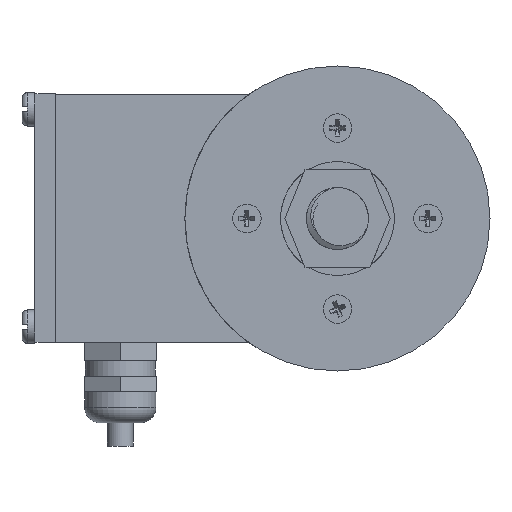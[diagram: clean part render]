
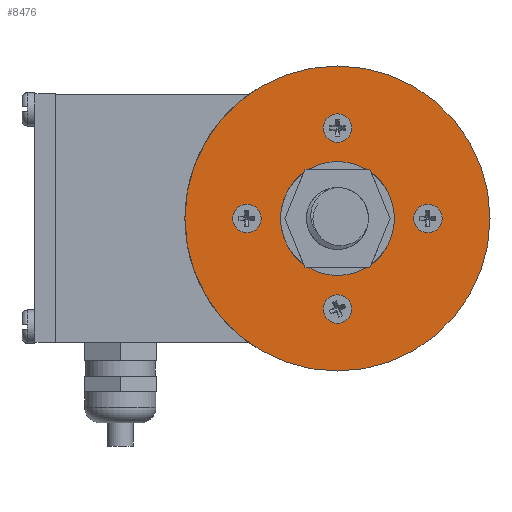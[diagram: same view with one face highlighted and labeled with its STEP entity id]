
A CAD part, front view. The second image highlights one B-rep face of the part: STEP entity #8476.
In plain terms, the highlighted planar face has unit normal (0, -1, 0).
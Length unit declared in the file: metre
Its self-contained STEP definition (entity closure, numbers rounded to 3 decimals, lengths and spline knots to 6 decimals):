
#19 = FACE_OUTER_BOUND ( 'NONE', #10253, .T. ) ;
#22 = FACE_BOUND ( 'NONE', #10271, .T. ) ;
#24 = FACE_BOUND ( 'NONE', #10251, .T. ) ;
#25 = FACE_BOUND ( 'NONE', #10249, .T. ) ;
#26 = FACE_BOUND ( 'NONE', #10246, .T. ) ;
#27 = FACE_BOUND ( 'NONE', #10248, .T. ) ;
#3450 = CIRCLE ( 'NONE', #9818, 0.0295 ) ;
#3478 = CIRCLE ( 'NONE', #9827, 0.011 ) ;
#3669 = CIRCLE ( 'NONE', #9858, 0.00275 ) ;
#3692 = CIRCLE ( 'NONE', #9857, 0.00275 ) ;
#3696 = CIRCLE ( 'NONE', #9860, 0.00275 ) ;
#3718 = CIRCLE ( 'NONE', #9859, 0.00275 ) ;
#3875 = CIRCLE ( 'NONE', #10649, 0.00275 ) ;
#3882 = CIRCLE ( 'NONE', #10654, 0.00275 ) ;
#3907 = CIRCLE ( 'NONE', #10659, 0.0295 ) ;
#3911 = CIRCLE ( 'NONE', #10662, 0.00275 ) ;
#3914 = CIRCLE ( 'NONE', #10661, 0.011 ) ;
#4964 = CARTESIAN_POINT ( 'NONE',  ( -0.01173, 0.003431, 0.00775 ) ) ;
#4965 = DIRECTION ( 'NONE',  ( 0., -1., 0. ) ) ;
#4966 = DIRECTION ( 'NONE',  ( 0., 0., -1. ) ) ;
#5005 = CARTESIAN_POINT ( 'NONE',  ( -0.01173, 0.003431, 0.00775 ) ) ;
#5006 = DIRECTION ( 'NONE',  ( 0., -1., 0. ) ) ;
#5007 = DIRECTION ( 'NONE',  ( 0., 0., 1. ) ) ;
#5764 = CARTESIAN_POINT ( 'NONE',  ( -0.01173, 0.003431, 0.028 ) ) ;
#5772 = CARTESIAN_POINT ( 'NONE',  ( 0.00577, 0.003431, 0.0105 ) ) ;
#5775 = CARTESIAN_POINT ( 'NONE',  ( -0.01173, 0.003431, -0.00325 ) ) ;
#5784 = CARTESIAN_POINT ( 'NONE',  ( -0.01173, 0.003431, -0.007 ) ) ;
#5788 = CARTESIAN_POINT ( 'NONE',  ( -0.02923, 0.003431, 0.005 ) ) ;
#5795 = CARTESIAN_POINT ( 'NONE',  ( 0.00577, 0.003431, 0.005 ) ) ;
#5843 = CARTESIAN_POINT ( 'NONE',  ( -0.02923, 0.003431, 0.0105 ) ) ;
#5881 = CARTESIAN_POINT ( 'NONE',  ( -0.01173, 0.003431, -0.02175 ) ) ;
#5883 = CARTESIAN_POINT ( 'NONE',  ( -0.01173, 0.003431, 0.03725 ) ) ;
#5892 = CARTESIAN_POINT ( 'NONE',  ( -0.01173, 0.003431, 0.0225 ) ) ;
#5900 = CARTESIAN_POINT ( 'NONE',  ( -0.01173, 0.003431, 0.01875 ) ) ;
#6080 = CARTESIAN_POINT ( 'NONE',  ( -0.01173, 0.003431, -0.0125 ) ) ;
#6586 = CARTESIAN_POINT ( 'NONE',  ( -0.01173, 0.003431, -0.00975 ) ) ;
#6587 = DIRECTION ( 'NONE',  ( 0., 1., 0. ) ) ;
#6588 = DIRECTION ( 'NONE',  ( 0., 0., 1. ) ) ;
#6590 = CARTESIAN_POINT ( 'NONE',  ( -0.01173, 0.003431, -0.00975 ) ) ;
#6591 = DIRECTION ( 'NONE',  ( 0., 1., 0. ) ) ;
#6592 = DIRECTION ( 'NONE',  ( 0., 0., 1. ) ) ;
#6616 = CARTESIAN_POINT ( 'NONE',  ( -0.02923, 0.003431, 0.00775 ) ) ;
#6617 = DIRECTION ( 'NONE',  ( 0., 1., 0. ) ) ;
#6618 = DIRECTION ( 'NONE',  ( 0., 0., 1. ) ) ;
#6621 = CARTESIAN_POINT ( 'NONE',  ( -0.02923, 0.003431, 0.00775 ) ) ;
#6622 = DIRECTION ( 'NONE',  ( 0., 1., 0. ) ) ;
#6623 = DIRECTION ( 'NONE',  ( 0., 0., 1. ) ) ;
#7416 = ORIENTED_EDGE ( 'NONE', *, *, #7901, .T. ) ;
#7524 = CARTESIAN_POINT ( 'NONE',  ( -0.01173, 0.003431, 0.02525 ) ) ;
#7525 = DIRECTION ( 'NONE',  ( 0., -1., 0. ) ) ;
#7526 = DIRECTION ( 'NONE',  ( 0., 0., 1. ) ) ;
#7569 = CARTESIAN_POINT ( 'NONE',  ( 0.00577, 0.003431, 0.00775 ) ) ;
#7570 = DIRECTION ( 'NONE',  ( 0., 1., 0. ) ) ;
#7571 = DIRECTION ( 'NONE',  ( 0., 0., 1. ) ) ;
#7698 = CARTESIAN_POINT ( 'NONE',  ( -0.01173, 0.003431, 0.00775 ) ) ;
#7699 = DIRECTION ( 'NONE',  ( 0., -1., 0. ) ) ;
#7700 = DIRECTION ( 'NONE',  ( 0., 0., -1. ) ) ;
#7749 = CARTESIAN_POINT ( 'NONE',  ( -0.01173, 0.003431, 0.00775 ) ) ;
#7750 = DIRECTION ( 'NONE',  ( 0., -1., 0. ) ) ;
#7751 = DIRECTION ( 'NONE',  ( 0., 0., 1. ) ) ;
#7755 = CARTESIAN_POINT ( 'NONE',  ( -0.01173, 0.003431, 0.02525 ) ) ;
#7756 = DIRECTION ( 'NONE',  ( 0., -1., 0. ) ) ;
#7757 = DIRECTION ( 'NONE',  ( 0., 0., 1. ) ) ;
#7901 = EDGE_CURVE ( 'NONE', #10304, #10345, #12142, .T. ) ;
#8318 = CARTESIAN_POINT ( 'NONE',  ( 0.00577, 0.003431, 0.00775 ) ) ;
#8335 = DIRECTION ( 'NONE',  ( 0., 0., 1. ) ) ;
#8336 = DIRECTION ( 'NONE',  ( 0., 1., 0. ) ) ;
#8476 = ADVANCED_FACE ( 'NONE', ( #25, #22, #26, #24, #19, #27 ), #8710, .F. ) ;
#8577 = ORIENTED_EDGE ( 'NONE', *, *, #12953, .T. ) ;
#8628 = ORIENTED_EDGE ( 'NONE', *, *, #13132, .F. ) ;
#8637 = ORIENTED_EDGE ( 'NONE', *, *, #13124, .T. ) ;
#8638 = ORIENTED_EDGE ( 'NONE', *, *, #13094, .F. ) ;
#8666 = ORIENTED_EDGE ( 'NONE', *, *, #13102, .T. ) ;
#8669 = ORIENTED_EDGE ( 'NONE', *, *, #9452, .F. ) ;
#8689 = ORIENTED_EDGE ( 'NONE', *, *, #13134, .F. ) ;
#8692 = ORIENTED_EDGE ( 'NONE', *, *, #12952, .T. ) ;
#8693 = ORIENTED_EDGE ( 'NONE', *, *, #9436, .T. ) ;
#8700 = ORIENTED_EDGE ( 'NONE', *, *, #12939, .T. ) ;
#8706 = ORIENTED_EDGE ( 'NONE', *, *, #12938, .T. ) ;
#8710 = PLANE ( 'NONE',  #12414 ) ;
#8744 = CARTESIAN_POINT ( 'NONE',  ( -0.04123, 0.003431, 0.00775 ) ) ;
#8771 = DIRECTION ( 'NONE',  ( 0., 0., 1. ) ) ;
#8857 = DIRECTION ( 'NONE',  ( 0., 1., 0. ) ) ;
#9346 = AXIS2_PLACEMENT_3D ( 'NONE', #8318, #8336, #8335 ) ;
#9436 = EDGE_CURVE ( 'NONE', #10488, #10494, #3450, .T. ) ;
#9452 = EDGE_CURVE ( 'NONE', #10506, #10319, #3478, .T. ) ;
#9818 = AXIS2_PLACEMENT_3D ( 'NONE', #4964, #4965, #4966 ) ;
#9827 = AXIS2_PLACEMENT_3D ( 'NONE', #5005, #5006, #5007 ) ;
#9857 = AXIS2_PLACEMENT_3D ( 'NONE', #6586, #6587, #6588 ) ;
#9858 = AXIS2_PLACEMENT_3D ( 'NONE', #6590, #6591, #6592 ) ;
#9859 = AXIS2_PLACEMENT_3D ( 'NONE', #6616, #6617, #6618 ) ;
#9860 = AXIS2_PLACEMENT_3D ( 'NONE', #6621, #6622, #6623 ) ;
#10246 = EDGE_LOOP ( 'NONE', ( #8577, #8692 ) ) ;
#10248 = EDGE_LOOP ( 'NONE', ( #8669, #8628 ) ) ;
#10249 = EDGE_LOOP ( 'NONE', ( #8638, #8689 ) ) ;
#10251 = EDGE_LOOP ( 'NONE', ( #8700, #8706 ) ) ;
#10253 = EDGE_LOOP ( 'NONE', ( #8637, #8693 ) ) ;
#10271 = EDGE_LOOP ( 'NONE', ( #7416, #8666 ) ) ;
#10293 = VERTEX_POINT ( 'NONE', #5764 ) ;
#10304 = VERTEX_POINT ( 'NONE', #5772 ) ;
#10319 = VERTEX_POINT ( 'NONE', #5775 ) ;
#10322 = VERTEX_POINT ( 'NONE', #5784 ) ;
#10333 = VERTEX_POINT ( 'NONE', #5788 ) ;
#10345 = VERTEX_POINT ( 'NONE', #5795 ) ;
#10436 = VERTEX_POINT ( 'NONE', #5843 ) ;
#10488 = VERTEX_POINT ( 'NONE', #5883 ) ;
#10494 = VERTEX_POINT ( 'NONE', #5881 ) ;
#10498 = VERTEX_POINT ( 'NONE', #5892 ) ;
#10506 = VERTEX_POINT ( 'NONE', #5900 ) ;
#10649 = AXIS2_PLACEMENT_3D ( 'NONE', #7524, #7525, #7526 ) ;
#10654 = AXIS2_PLACEMENT_3D ( 'NONE', #7569, #7570, #7571 ) ;
#10659 = AXIS2_PLACEMENT_3D ( 'NONE', #7698, #7699, #7700 ) ;
#10661 = AXIS2_PLACEMENT_3D ( 'NONE', #7749, #7750, #7751 ) ;
#10662 = AXIS2_PLACEMENT_3D ( 'NONE', #7755, #7756, #7757 ) ;
#12142 = CIRCLE ( 'NONE', #9346, 0.00275 ) ;
#12414 = AXIS2_PLACEMENT_3D ( 'NONE', #8744, #8857, #8771 ) ;
#12711 = VERTEX_POINT ( 'NONE', #6080 ) ;
#12938 = EDGE_CURVE ( 'NONE', #12711, #10322, #3692, .T. ) ;
#12939 = EDGE_CURVE ( 'NONE', #10322, #12711, #3669, .T. ) ;
#12952 = EDGE_CURVE ( 'NONE', #10333, #10436, #3718, .T. ) ;
#12953 = EDGE_CURVE ( 'NONE', #10436, #10333, #3696, .T. ) ;
#13094 = EDGE_CURVE ( 'NONE', #10293, #10498, #3875, .T. ) ;
#13102 = EDGE_CURVE ( 'NONE', #10345, #10304, #3882, .T. ) ;
#13124 = EDGE_CURVE ( 'NONE', #10494, #10488, #3907, .T. ) ;
#13132 = EDGE_CURVE ( 'NONE', #10319, #10506, #3914, .T. ) ;
#13134 = EDGE_CURVE ( 'NONE', #10498, #10293, #3911, .T. ) ;
